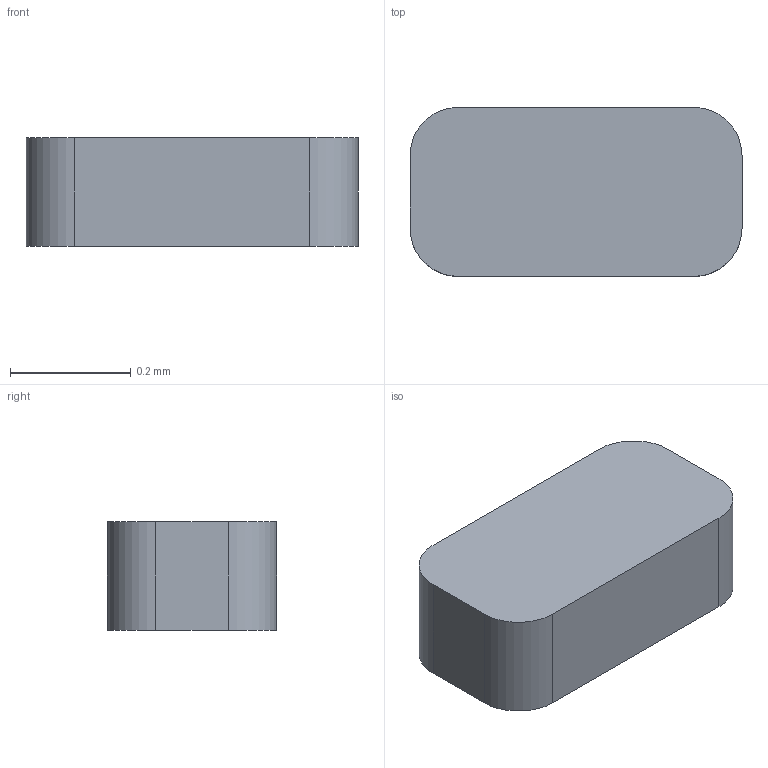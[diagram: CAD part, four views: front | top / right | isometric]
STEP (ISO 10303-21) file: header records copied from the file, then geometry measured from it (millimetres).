
FILE_DESCRIPTION(('Open CASCADE Model'),'2;1');
FILE_NAME('Open CASCADE Shape Model','2026-09-15T23:57:53',('Author'),( 'Open CASCADE'),'Open CASCADE STEP processor 7.9','Open CASCADE 7.9' ,'Unknown');
FILE_SCHEMA(('AUTOMOTIVE_DESIGN { 1 0 10303 214 1 1 1 1 }'));
Length unit declared in the file: millimetre
Products named in the file (1): Open CASCADE STEP translator 7.9 5
Bounding box: 0.55 x 0.28 x 0.18 mm (x, y, z)
Volume: 0 mm3; surface area: 0.6 mm2
Topology: 1 solids, 1 shells, 10 faces, 24 edges, 16 vertices
Faces by surface type: plane 6, cylinder 4
Entity records: 624 total; most frequent: CARTESIAN_POINT 111, DIRECTION 100, LINE 56, VECTOR 56, ORIENTED_EDGE 48, PCURVE 48, DEFINITIONAL_REPRESENTATION 48, EDGE_CURVE 24
